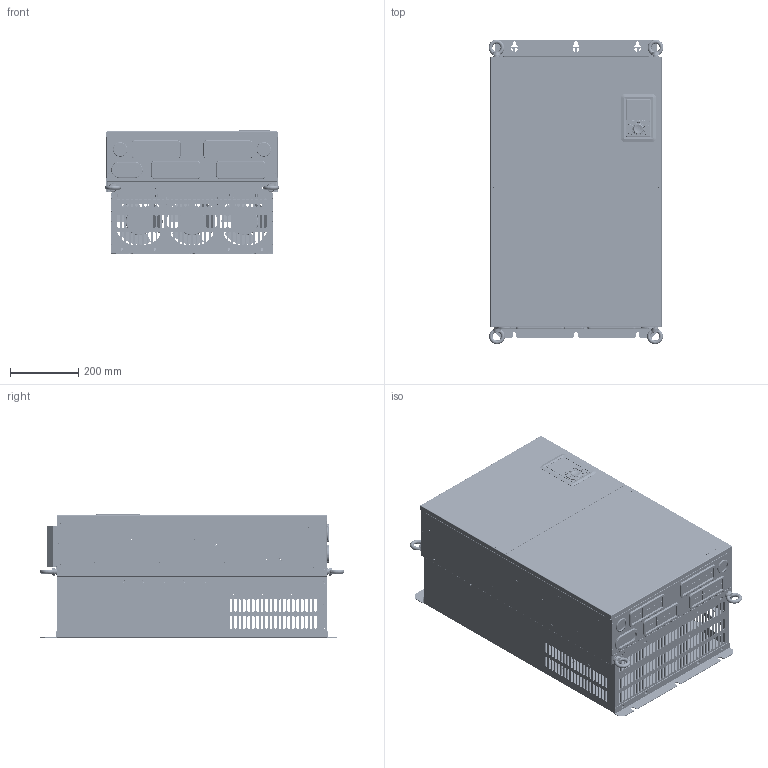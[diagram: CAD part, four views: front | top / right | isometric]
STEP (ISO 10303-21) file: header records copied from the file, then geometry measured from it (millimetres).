
FILE_DESCRIPTION((''),'2;1');
FILE_NAME('Open CASCADE Shape Model','2021-03-30T09:25:52',( 'Administrator'),(''),'Open CASCADE STEP processor 7.6', 'PRO/ENGINEER BY PARAMETRIC TECHNOLOGY CORPORATION, 2010100','Unknown' );
FILE_SCHEMA(('AUTOMOTIVE_DESIGN_CC2 { 1 2 10303 214 -1 1 5 4 }'));
Length unit declared in the file: millimetre
Products named in the file (128): GD350-200G-4_ASM; 40800960_ASM; 61061121_ASM; 80384713_ASM; 80384713; S-M8-ZC; S-M4-ZC; 80385060_ASM; 80385060; BSO-M4-12-ZC; 80381428_ASM; 80381428; 80385061_ASM; 80385061; NZ-M10-ZC; 80385058_ASM; 80385058; 80380144_ASM; 80380144; S-M5-ZC; 80380145_ASM; 80380145; 80380150_ASM; 80380150; 80380147; 80385059_ASM; 80385059; 80381356_ASM; 80381356; SO-M4-8-ZC; BSO-M4-16-ZC; 80380146_ASM; 80380146; 80380148_ASM; 80380148; 80380159; 80380164_ASM; 80380164; 80380156_ASM; 80380156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
Assembly tree (438 placements, depth 6):
  GD350-200G-4_ASM
    40800960_ASM
      61061121_ASM
        80384713_ASM
          80384713
          S-M8-ZC  x8
          S-M4-ZC  x12
        80385060_ASM
          80385060
          S-M4-ZC  x10
          BSO-M4-12-ZC  x2
          S-M8-ZC  x2
        80381428_ASM
          80381428
        80385061_ASM  x2
          80385061
          NZ-M10-ZC
          S-M8-ZC
        80385058_ASM
          80385058
          S-M4-ZC  x3
        80380144_ASM
          80380144
          S-M5-ZC  x3
        80380145_ASM
          80380145
          S-M5-ZC  x4
        80380150_ASM  x2
          80380150
          S-M4-ZC
        80380147  x2
        80385059_ASM
          80385059
          S-M8-ZC  x4
          NZ-M10-ZC  x2
        80381356_ASM
          80381356
          S-M4-ZC  x40
          SO-M4-8-ZC  x2
          BSO-M4-16-ZC  x2
        80380146_ASM  x4
          80380146
          S-M8-ZC
        80380148_ASM  x2
          80380148
          S-M4-ZC
        80380159  x2
        80380164_ASM  x2
          80380164
          S-M4-ZC
        80380156_ASM
          80380156
          S-M5-ZC  x6
        GB12617_4_4X10_SL  x108
        GB12617_4_4X12_SL  x12
      80384709
      80384719
      80381357_ASM
        80381357
        SO-M4-8-ZC  x9
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Bounding box: 511.2 x 890.1 x 363.8 mm (x, y, z)
Volume: 8063944.5 mm3; surface area: 7195532.8 mm2
Topology: 419 solids, 445 shells, 26603 faces, 69243 edges, 44655 vertices
Faces by surface type: plane 17310, cylinder 6040, cone 2347, torus 535, bspline 233, extrusion 116, sphere 22
Entity records: 347896 total; most frequent: CARTESIAN_POINT 76958, DIRECTION 56193, ORIENTED_EDGE 55192, EDGE_CURVE 27646, AXIS2_PLACEMENT_3D 19094, VECTOR 18005, LINE 17889, VERTEX_POINT 17642
